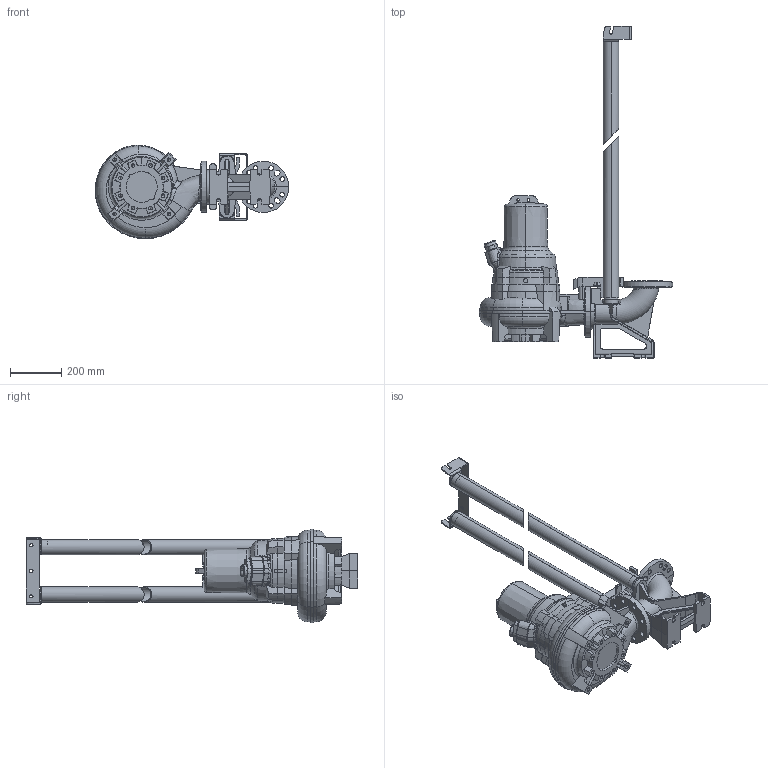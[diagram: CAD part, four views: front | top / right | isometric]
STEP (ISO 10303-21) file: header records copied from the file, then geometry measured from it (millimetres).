
FILE_DESCRIPTION (( 'STEP AP203' ), '1' );
FILE_NAME ('80FWC-M_2,2-3,1kW COUPLING SYSTEM.STEP', '2025-03-21T15:51:52', ( '' ), ( '' ), 'SwSTEP 2.0', 'SolidWorks 2023', '' );
FILE_SCHEMA (( 'CONFIG_CONTROL_DESIGN' ));
Length unit declared in the file: millimetre
Products named in the file (1): 80FWC-M_2,2-3,1kW COUPLING SYSTEM
Bounding box: 757.76 x 1297.97 x 365.91 mm (x, y, z)
Volume: 33226537.8 mm3; surface area: 2002809.5 mm2
Topology: 2 solids, 2 shells, 992 faces, 2666 edges, 1696 vertices
Faces by surface type: plane 455, cylinder 202, cone 181, bspline 85, torus 60, sphere 9
Entity records: 43446 total; most frequent: CARTESIAN_POINT 19829, ORIENTED_EDGE 5276, DIRECTION 4457, EDGE_CURVE 2638, VERTEX_POINT 1696, AXIS2_PLACEMENT_3D 1646, VECTOR 1165, LINE 1165
